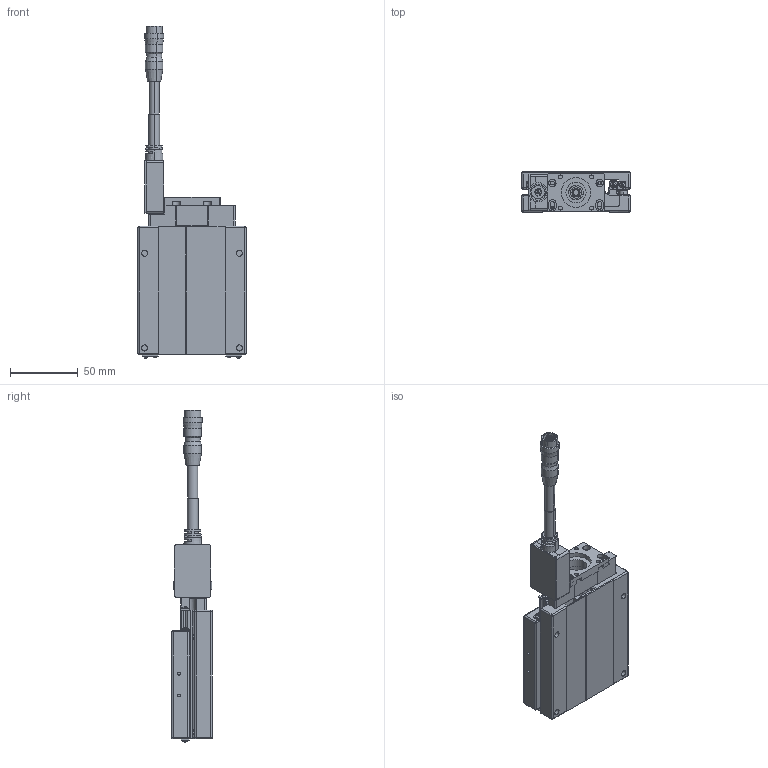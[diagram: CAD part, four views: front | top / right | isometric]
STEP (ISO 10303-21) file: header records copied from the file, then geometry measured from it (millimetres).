
FILE_DESCRIPTION (( 'STEP AP203' ), '1' );
FILE_NAME ('CXS8030(28框無馬達).STEP', '2023-12-25T08:05:21', ( '' ), ( '' ), 'SwSTEP 2.0', 'SolidWorks 2019', '' );
FILE_SCHEMA (( 'CONFIG_CONTROL_DESIGN' ));
Length unit declared in the file: millimetre
Products named in the file (6): Group1^CXS8030(28框無馬達)_defeature_GMT; Group2^CXS8030(28框無馬達)_defeature_GMT; CXS8030(28框無馬達); CXS8030-05-00-1^CXS8030(28框無馬達)_defeature_GMT; HR10A-10J-12P; CXS50-G28_GMT
Assembly tree (5 placements, depth 2):
  CXS8030(28框無馬達)
    Group1^CXS8030(28框無馬達)_defeature_GMT
    Group2^CXS8030(28框無馬達)_defeature_GMT
    CXS8030-05-00-1^CXS8030(28框無馬達)_defeature_GMT
    HR10A-10J-12P
    CXS50-G28_GMT
Bounding box: 80 x 30 x 245.49 mm (x, y, z)
Volume: 171577.3 mm3; surface area: 74227 mm2
Topology: 16 solids, 17 shells, 1946 faces, 4966 edges, 3119 vertices
Faces by surface type: plane 1104, cylinder 482, cone 146, sphere 122, bspline 69, torus 23
Entity records: 61581 total; most frequent: CARTESIAN_POINT 13833, DIRECTION 9916, ORIENTED_EDGE 9740, EDGE_CURVE 4870, AXIS2_PLACEMENT_3D 3440, VERTEX_POINT 3095, LINE 3036, VECTOR 3036
